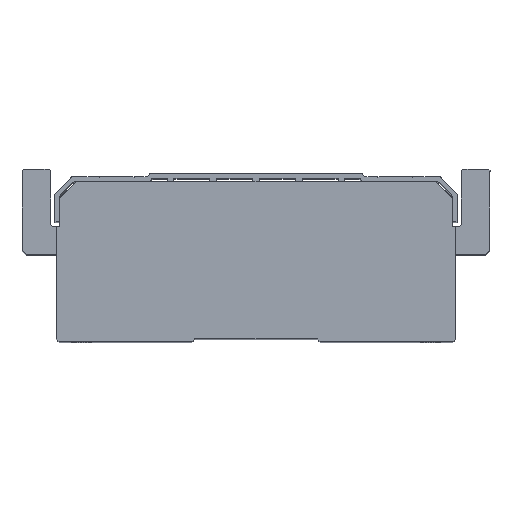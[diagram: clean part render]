
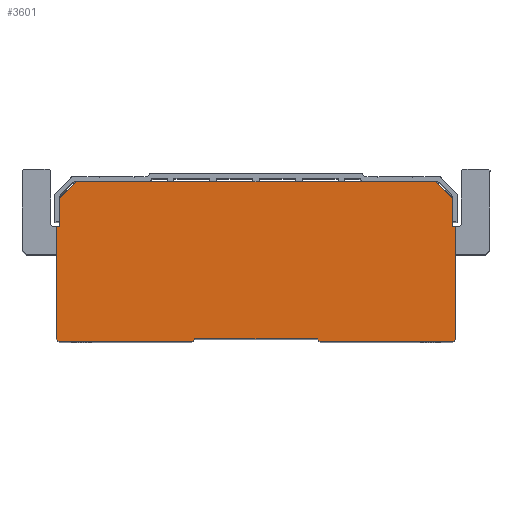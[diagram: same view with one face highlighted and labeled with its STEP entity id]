
A CAD part, top view. The second image highlights one B-rep face of the part: STEP entity #3601.
In plain terms, the highlighted planar face has unit normal (0, 0, 1).
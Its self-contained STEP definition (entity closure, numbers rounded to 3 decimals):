
#3441 = VERTEX_POINT ( 'NONE', #10436 ) ;
#3443 = EDGE_CURVE ( 'NONE', #3441, #3454, #10435, .T. ) ;
#3454 = VERTEX_POINT ( 'NONE', #10483 ) ;
#3472 = VERTEX_POINT ( 'NONE', #10516 ) ;
#3478 = EDGE_CURVE ( 'NONE', #3495, #3479, #10505, .T. ) ;
#3479 = VERTEX_POINT ( 'NONE', #10501 ) ;
#3494 = EDGE_CURVE ( 'NONE', #3495, #3503, #10544, .T. ) ;
#3495 = VERTEX_POINT ( 'NONE', #10540 ) ;
#3502 = EDGE_CURVE ( 'NONE', #3454, #3503, #10590, .T. ) ;
#3503 = VERTEX_POINT ( 'NONE', #10586 ) ;
#3514 = EDGE_CURVE ( 'NONE', #3472, #3515, #10568, .T. ) ;
#3515 = VERTEX_POINT ( 'NONE', #10564 ) ;
#3541 = EDGE_CURVE ( 'NONE', #3479, #3542, #10653, .T. ) ;
#3542 = VERTEX_POINT ( 'NONE', #10649 ) ;
#3551 = EDGE_CURVE ( 'NONE', #3542, #3472, #10633, .T. ) ;
#3572 = EDGE_CURVE ( 'NONE', #3579, #3573, #10663, .T. ) ;
#3573 = VERTEX_POINT ( 'NONE', #10659 ) ;
#3578 = EDGE_CURVE ( 'NONE', #3515, #3579, #10717, .T. ) ;
#3579 = VERTEX_POINT ( 'NONE', #10713 ) ;
#3594 = VERTEX_POINT ( 'NONE', #10752 ) ;
#3595 = ORIENTED_EDGE ( 'NONE', *, *, #3596, .T. ) ;
#3596 = EDGE_CURVE ( 'NONE', #3594, #3573, #10751, .T. ) ;
#3597 = ORIENTED_EDGE ( 'NONE', *, *, #3572, .F. ) ;
#3598 = ORIENTED_EDGE ( 'NONE', *, *, #3578, .F. ) ;
#3601 = ADVANCED_FACE ( 'NONE', ( #10742 ), #10741, .T. ) ;
#3602 = EDGE_LOOP ( 'NONE', ( #3603, #3604, #3607, #3610, #3673, #3677, #3680, #3595, #3597, #3598, #3660, #3661, #3662, #3663, #3664, #3665 ) ) ;
#3603 = ORIENTED_EDGE ( 'NONE', *, *, #3443, .F. ) ;
#3604 = ORIENTED_EDGE ( 'NONE', *, *, #3605, .T. ) ;
#3605 = EDGE_CURVE ( 'NONE', #3441, #3606, #10736, .T. ) ;
#3606 = VERTEX_POINT ( 'NONE', #10732 ) ;
#3607 = ORIENTED_EDGE ( 'NONE', *, *, #3608, .T. ) ;
#3608 = EDGE_CURVE ( 'NONE', #3606, #3609, #10731, .T. ) ;
#3609 = VERTEX_POINT ( 'NONE', #10727 ) ;
#3610 = ORIENTED_EDGE ( 'NONE', *, *, #3611, .T. ) ;
#3611 = EDGE_CURVE ( 'NONE', #3609, #3612, #10726, .T. ) ;
#3612 = VERTEX_POINT ( 'NONE', #10722 ) ;
#3660 = ORIENTED_EDGE ( 'NONE', *, *, #3514, .F. ) ;
#3661 = ORIENTED_EDGE ( 'NONE', *, *, #3551, .F. ) ;
#3662 = ORIENTED_EDGE ( 'NONE', *, *, #3541, .F. ) ;
#3663 = ORIENTED_EDGE ( 'NONE', *, *, #3478, .F. ) ;
#3664 = ORIENTED_EDGE ( 'NONE', *, *, #3494, .T. ) ;
#3665 = ORIENTED_EDGE ( 'NONE', *, *, #3502, .F. ) ;
#3673 = ORIENTED_EDGE ( 'NONE', *, *, #3674, .T. ) ;
#3674 = EDGE_CURVE ( 'NONE', #3612, #3675, #10851, .T. ) ;
#3675 = VERTEX_POINT ( 'NONE', #10846 ) ;
#3677 = ORIENTED_EDGE ( 'NONE', *, *, #3678, .T. ) ;
#3678 = EDGE_CURVE ( 'NONE', #3675, #3679, #10845, .T. ) ;
#3679 = VERTEX_POINT ( 'NONE', #10840 ) ;
#3680 = ORIENTED_EDGE ( 'NONE', *, *, #3681, .T. ) ;
#3681 = EDGE_CURVE ( 'NONE', #3679, #3594, #10839, .T. ) ;
#10432 = DIRECTION ( 'NONE',  ( 0., -1., 0. ) ) ;
#10433 = VECTOR ( 'NONE', #10432, 1000. ) ;
#10434 = CARTESIAN_POINT ( 'NONE',  ( 140., -195.554, 0. ) ) ;
#10435 = LINE ( 'NONE', #10434, #10433 ) ;
#10436 = CARTESIAN_POINT ( 'NONE',  ( 140., 79., 0. ) ) ;
#10483 = CARTESIAN_POINT ( 'NONE',  ( 140., 0., 0. ) ) ;
#10501 = CARTESIAN_POINT ( 'NONE',  ( 43., 0., 0. ) ) ;
#10502 = DIRECTION ( 'NONE',  ( -0.707, 0.707, 0. ) ) ;
#10503 = VECTOR ( 'NONE', #10502, 1000. ) ;
#10504 = CARTESIAN_POINT ( 'NONE',  ( 119.277, -76.277, 0. ) ) ;
#10505 = LINE ( 'NONE', #10504, #10503 ) ;
#10516 = CARTESIAN_POINT ( 'NONE',  ( -45., -2., 0. ) ) ;
#10540 = CARTESIAN_POINT ( 'NONE',  ( 45., -2., 0. ) ) ;
#10541 = DIRECTION ( 'NONE',  ( 1., 0., 0. ) ) ;
#10542 = VECTOR ( 'NONE', #10541, 1000. ) ;
#10543 = CARTESIAN_POINT ( 'NONE',  ( 0., -2., 0. ) ) ;
#10544 = LINE ( 'NONE', #10543, #10542 ) ;
#10564 = CARTESIAN_POINT ( 'NONE',  ( -138., -2., 0. ) ) ;
#10565 = DIRECTION ( 'NONE',  ( -1., 0., 0. ) ) ;
#10566 = VECTOR ( 'NONE', #10565, 1000. ) ;
#10567 = CARTESIAN_POINT ( 'NONE',  ( 0., -2., 0. ) ) ;
#10568 = LINE ( 'NONE', #10567, #10566 ) ;
#10586 = CARTESIAN_POINT ( 'NONE',  ( 138., -2., 0. ) ) ;
#10587 = DIRECTION ( 'NONE',  ( -0.707, -0.707, 0. ) ) ;
#10588 = VECTOR ( 'NONE', #10587, 1000. ) ;
#10589 = CARTESIAN_POINT ( 'NONE',  ( -27.777, -167.777, 0. ) ) ;
#10590 = LINE ( 'NONE', #10589, #10588 ) ;
#10630 = DIRECTION ( 'NONE',  ( -0.707, -0.707, 0. ) ) ;
#10631 = VECTOR ( 'NONE', #10630, 1000. ) ;
#10632 = CARTESIAN_POINT ( 'NONE',  ( -119.277, -76.277, 0. ) ) ;
#10633 = LINE ( 'NONE', #10632, #10631 ) ;
#10649 = CARTESIAN_POINT ( 'NONE',  ( -43., 0., 0. ) ) ;
#10650 = DIRECTION ( 'NONE',  ( -1., 0., 0. ) ) ;
#10651 = VECTOR ( 'NONE', #10650, 1000. ) ;
#10652 = CARTESIAN_POINT ( 'NONE',  ( 0., 0., 0. ) ) ;
#10653 = LINE ( 'NONE', #10652, #10651 ) ;
#10659 = CARTESIAN_POINT ( 'NONE',  ( -140., 79., 0. ) ) ;
#10660 = DIRECTION ( 'NONE',  ( 0., 1., 0. ) ) ;
#10661 = VECTOR ( 'NONE', #10660, 1000. ) ;
#10662 = CARTESIAN_POINT ( 'NONE',  ( -140., -195.554, 0. ) ) ;
#10663 = LINE ( 'NONE', #10662, #10661 ) ;
#10713 = CARTESIAN_POINT ( 'NONE',  ( -140., 0., 0. ) ) ;
#10714 = DIRECTION ( 'NONE',  ( -0.707, 0.707, 0. ) ) ;
#10715 = VECTOR ( 'NONE', #10714, 1000. ) ;
#10716 = CARTESIAN_POINT ( 'NONE',  ( 27.777, -167.777, 0. ) ) ;
#10717 = LINE ( 'NONE', #10716, #10715 ) ;
#10722 = CARTESIAN_POINT ( 'NONE',  ( 125.5, 110., 0. ) ) ;
#10723 = DIRECTION ( 'NONE',  ( -0.707, 0.707, 0. ) ) ;
#10724 = VECTOR ( 'NONE', #10723, 1000. ) ;
#10725 = CARTESIAN_POINT ( 'NONE',  ( 137.5, 98., 0. ) ) ;
#10726 = LINE ( 'NONE', #10725, #10724 ) ;
#10727 = CARTESIAN_POINT ( 'NONE',  ( 137.5, 98., 0. ) ) ;
#10728 = DIRECTION ( 'NONE',  ( 0., 1., 0. ) ) ;
#10729 = VECTOR ( 'NONE', #10728, 1000. ) ;
#10730 = CARTESIAN_POINT ( 'NONE',  ( 137.5, 98., 0. ) ) ;
#10731 = LINE ( 'NONE', #10730, #10729 ) ;
#10732 = CARTESIAN_POINT ( 'NONE',  ( 137.5, 79., 0. ) ) ;
#10733 = DIRECTION ( 'NONE',  ( -1., 0., 0. ) ) ;
#10734 = VECTOR ( 'NONE', #10733, 1000. ) ;
#10735 = CARTESIAN_POINT ( 'NONE',  ( 137.5, 79., 0. ) ) ;
#10736 = LINE ( 'NONE', #10735, #10734 ) ;
#10737 = DIRECTION ( 'NONE',  ( 1., 0., 0. ) ) ;
#10738 = DIRECTION ( 'NONE',  ( 0., 0., 1. ) ) ;
#10739 = CARTESIAN_POINT ( 'NONE',  ( 0., -195.554, 0. ) ) ;
#10740 = AXIS2_PLACEMENT_3D ( 'NONE', #10739, #10738, #10737 ) ;
#10741 = PLANE ( 'NONE',  #10740 ) ;
#10742 = FACE_OUTER_BOUND ( 'NONE', #3602, .T. ) ;
#10748 = DIRECTION ( 'NONE',  ( -1., 0., 0. ) ) ;
#10749 = VECTOR ( 'NONE', #10748, 1000. ) ;
#10750 = CARTESIAN_POINT ( 'NONE',  ( -137.5, 79., 0. ) ) ;
#10751 = LINE ( 'NONE', #10750, #10749 ) ;
#10752 = CARTESIAN_POINT ( 'NONE',  ( -137.5, 79., 0. ) ) ;
#10836 = DIRECTION ( 'NONE',  ( 0., -1., 0. ) ) ;
#10837 = VECTOR ( 'NONE', #10836, 1000. ) ;
#10838 = CARTESIAN_POINT ( 'NONE',  ( -137.5, 98., 0. ) ) ;
#10839 = LINE ( 'NONE', #10838, #10837 ) ;
#10840 = CARTESIAN_POINT ( 'NONE',  ( -137.5, 98., 0. ) ) ;
#10842 = DIRECTION ( 'NONE',  ( -0.707, -0.707, 0. ) ) ;
#10843 = VECTOR ( 'NONE', #10842, 1000. ) ;
#10844 = CARTESIAN_POINT ( 'NONE',  ( -137.5, 98., 0. ) ) ;
#10845 = LINE ( 'NONE', #10844, #10843 ) ;
#10846 = CARTESIAN_POINT ( 'NONE',  ( -125.5, 110., 0. ) ) ;
#10847 = DIRECTION ( 'NONE',  ( -1., 0., 0. ) ) ;
#10848 = VECTOR ( 'NONE', #10847, 1000. ) ;
#10850 = CARTESIAN_POINT ( 'NONE',  ( 125.5, 110., 0. ) ) ;
#10851 = LINE ( 'NONE', #10850, #10848 ) ;
